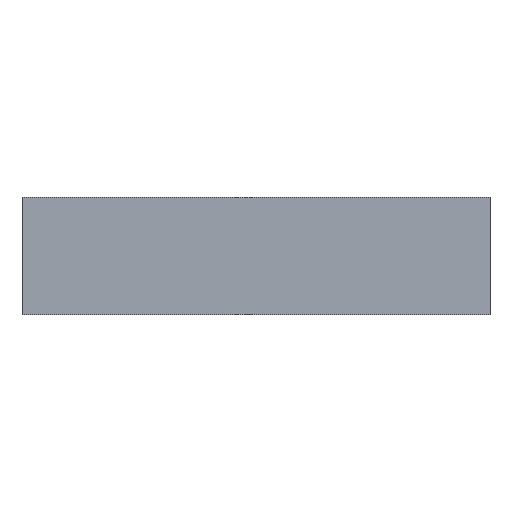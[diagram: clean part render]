
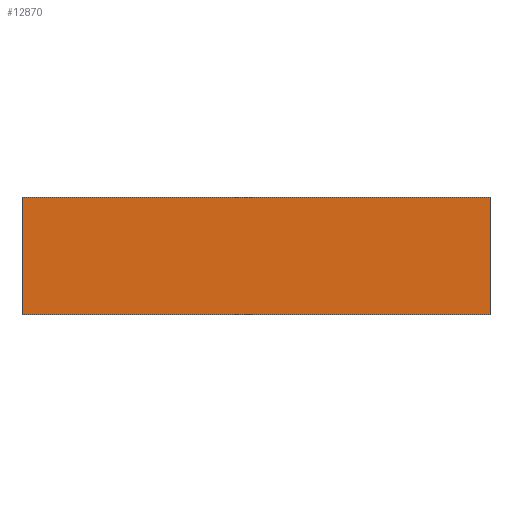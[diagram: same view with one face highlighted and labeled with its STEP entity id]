
A CAD part, front view. The second image highlights one B-rep face of the part: STEP entity #12870.
In plain terms, the highlighted free-form (B-spline) face has degree [1, 1] with [2, 2] control points.
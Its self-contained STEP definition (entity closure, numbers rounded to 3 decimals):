
#12520 = CARTESIAN_POINT ('', (-25.4, -23.813, 12.7));
#12530 = VERTEX_POINT ('', #12520);
#12540 = CARTESIAN_POINT ('', (25.4, -23.813, 12.7));
#12550 = VERTEX_POINT ('', #12540);
#12560 = CARTESIAN_POINT ('', (-25.4, -23.813, 12.7));
#12570 = CARTESIAN_POINT ('', (25.4, -23.813, 12.7));
#12580 = B_SPLINE_CURVE_WITH_KNOTS ('', 1, (#12560, #12570), .UNSPECIFIED., .F., .U., (2, 2), (0., 1.), .UNSPECIFIED.);
#12590 = EDGE_CURVE ('', #12530, #12550, #12580, .T.);
#12600 = ORIENTED_EDGE ('', *, *, #12590, .F.);
#12610 = CARTESIAN_POINT ('', (-25.4, -23.813, 0.));
#12620 = VERTEX_POINT ('', #12610);
#12630 = CARTESIAN_POINT ('', (-25.4, -23.813, 0.));
#12640 = CARTESIAN_POINT ('', (-25.4, -23.813, 12.7));
#12650 = B_SPLINE_CURVE_WITH_KNOTS ('', 1, (#12630, #12640), .UNSPECIFIED., .F., .U., (2, 2), (0., 0.5), .UNSPECIFIED.);
#12660 = EDGE_CURVE ('', #12620, #12530, #12650, .T.);
#12670 = ORIENTED_EDGE ('', *, *, #12660, .F.);
#12680 = CARTESIAN_POINT ('', (25.4, -23.813, 0.));
#12690 = VERTEX_POINT ('', #12680);
#12700 = CARTESIAN_POINT ('', (25.4, -23.813, 0.));
#12710 = CARTESIAN_POINT ('', (-25.4, -23.813, 0.));
#12720 = B_SPLINE_CURVE_WITH_KNOTS ('', 1, (#12700, #12710), .UNSPECIFIED., .F., .U., (2, 2), (0., 1.), .UNSPECIFIED.);
#12730 = EDGE_CURVE ('', #12690, #12620, #12720, .T.);
#12740 = ORIENTED_EDGE ('', *, *, #12730, .F.);
#12750 = CARTESIAN_POINT ('', (25.4, -23.813, 0.));
#12760 = CARTESIAN_POINT ('', (25.4, -23.813, 12.7));
#12770 = B_SPLINE_CURVE_WITH_KNOTS ('', 1, (#12750, #12760), .UNSPECIFIED., .F., .U., (2, 2), (0., 0.5), .UNSPECIFIED.);
#12780 = EDGE_CURVE ('', #12690, #12550, #12770, .T.);
#12790 = ORIENTED_EDGE ('', *, *, #12780, .T.);
#12800 = EDGE_LOOP ('', (#12600, #12670, #12740, #12790));
#12810 = FACE_OUTER_BOUND ('', #12800, .T.);
#12820 = CARTESIAN_POINT ('', (25.4, -23.813, 0.));
#12830 = CARTESIAN_POINT ('', (-25.4, -23.813, 0.));
#12840 = CARTESIAN_POINT ('', (25.4, -23.813, 12.7));
#12850 = CARTESIAN_POINT ('', (-25.4, -23.813, 12.7));
#12860 = B_SPLINE_SURFACE_WITH_KNOTS ('', 1, 1, ((#12820, #12830), (#12840, #12850)), .UNSPECIFIED., .F., .F., .U., (2, 2), (2, 2), (0., 0.5), (0., 1.), .UNSPECIFIED.);
#12870 = ADVANCED_FACE ('', (#12810), #12860, .T.);
